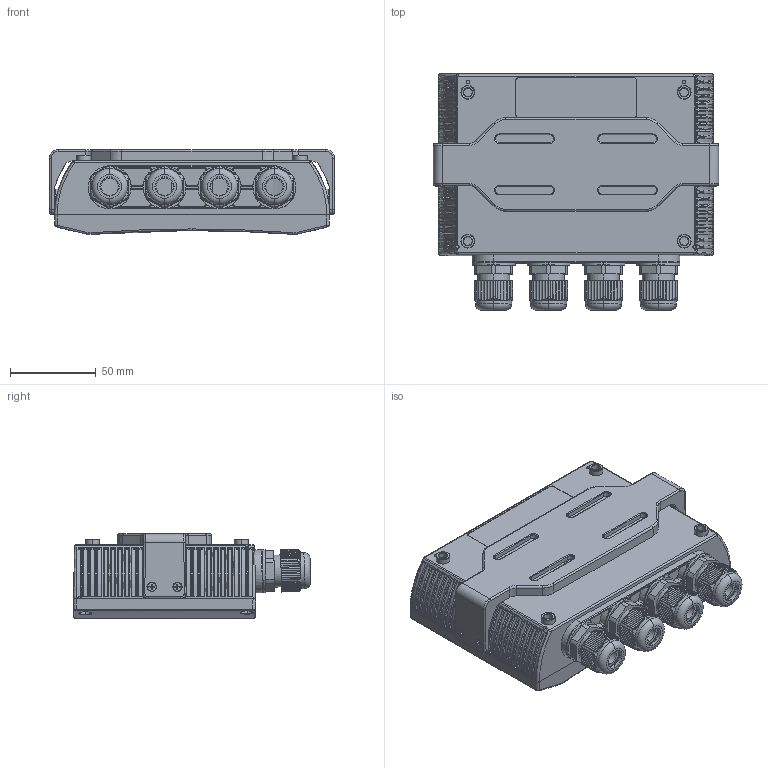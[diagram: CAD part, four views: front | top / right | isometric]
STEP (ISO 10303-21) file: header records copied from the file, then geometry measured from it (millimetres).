
FILE_DESCRIPTION (( 'STEP AP203' ), '1' );
FILE_NAME ('3D_TID1.STEP', '2021-07-06T10:03:40', ( '' ), ( '' ), 'SwSTEP 2.0', 'SolidWorks 2015', '' );
FILE_SCHEMA (( 'CONFIG_CONTROL_DESIGN' ));
Length unit declared in the file: millimetre
Products named in the file (9): 3-8蹟緲; TIC-C-upper; TIC-C-breaky; TP11-0; M5-圓頭螺絲-10; 滅阨諉螹; O倛虐^TIC-C-2; TIC-C-bottom; 3D_TID1
Assembly tree (17 placements, depth 2):
  3D_TID1
    TIC-C-upper
    TIC-C-bottom
    TIC-C-breaky
    O倛虐^TIC-C-2
    TP11-0
    滅阨諉螹  x4
    M5-圓頭螺絲-10  x6
    3-8蹟緲  x2
Bounding box: 166 x 137.94 x 49.33 mm (x, y, z)
Volume: 251262.7 mm3; surface area: 187480.3 mm2
Topology: 30 solids, 32 shells, 2898 faces, 7623 edges, 4898 vertices
Faces by surface type: cylinder 1266, plane 1004, torus 406, cone 110, bspline 92, sphere 20
Entity records: 74209 total; most frequent: CARTESIAN_POINT 21552, ORIENTED_EDGE 10942, DIRECTION 10799, EDGE_CURVE 5475, AXIS2_PLACEMENT_3D 4141, VERTEX_POINT 3478, LINE 2517, VECTOR 2517
